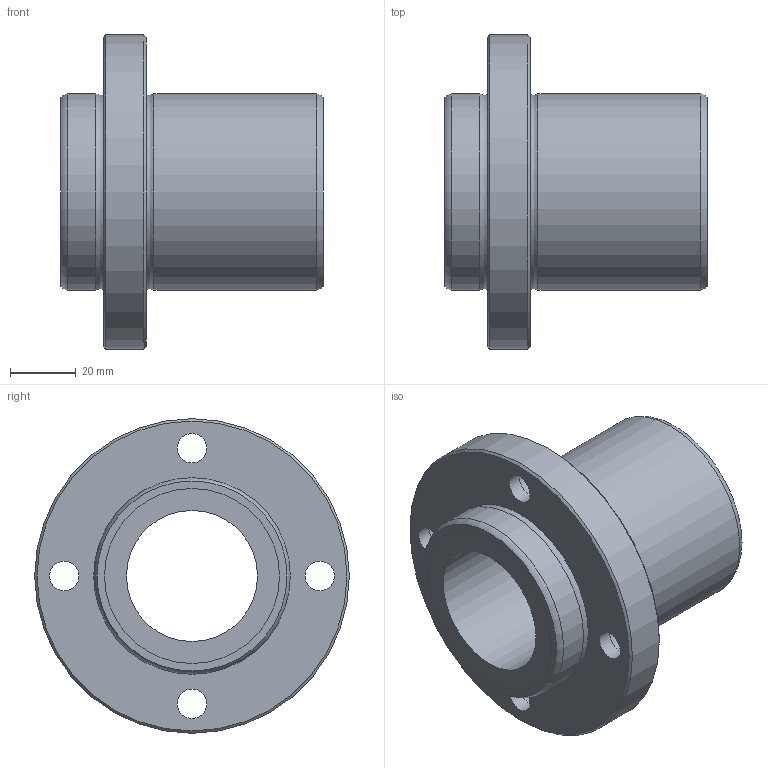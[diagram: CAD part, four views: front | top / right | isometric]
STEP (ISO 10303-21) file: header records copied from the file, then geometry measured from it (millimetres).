
FILE_DESCRIPTION((''),'2;1');
FILE_NAME('D:\製品 (図面)\カタログ用3D\リニアベアリング関連\STEP形式\LFB\LFB40.stp','2010-06-03T09:18:43',('Tsuchiya'),(''),'Autodesk Inventor 10','Autodesk Inventor 10','');
FILE_SCHEMA(('AUTOMOTIVE_DESIGN { 1 0 10303 214 1 1 1 1 }'));
Length unit declared in the file: millimetre
Products named in the file (1): LFB40
Bounding box: 80 x 96 x 96 mm (x, y, z)
Volume: 175597.9 mm3; surface area: 39700.8 mm2
Topology: 1 solids, 1 shells, 30 faces, 54 edges, 34 vertices
Faces by surface type: bspline 14, cylinder 6, plane 6, cone 2, torus 2
Full cylindrical faces by diameter (mm): 40 x1, 53.4 x2, 60 x2, 96 x1
Entity records: 907 total; most frequent: CARTESIAN_POINT 371, DIRECTION 102, ORIENTED_EDGE 68, EDGE_LOOP 68, AXIS2_PLACEMENT_3D 51, FACE_BOUND 38, VERTEX_POINT 34, CIRCLE 34
